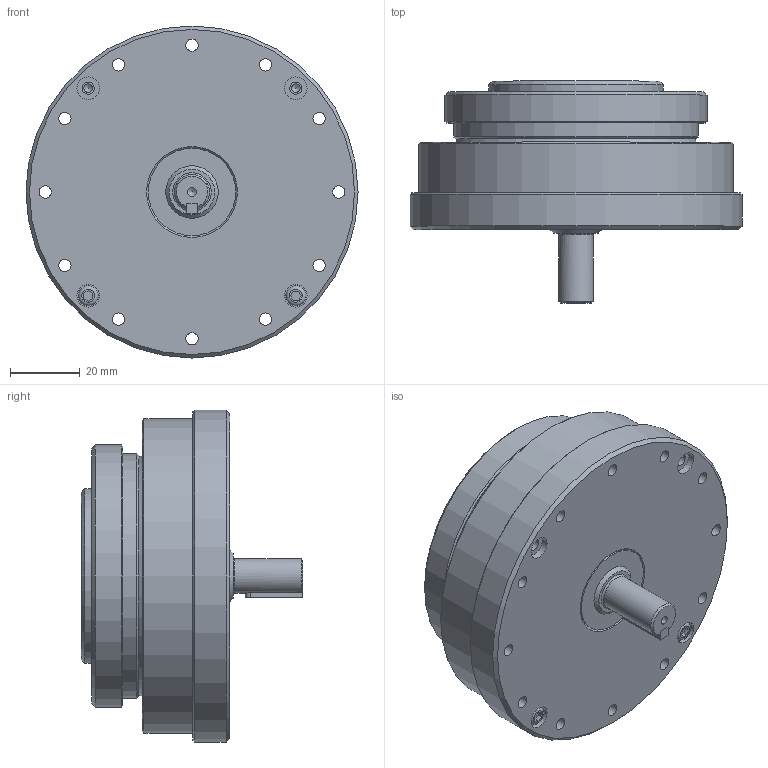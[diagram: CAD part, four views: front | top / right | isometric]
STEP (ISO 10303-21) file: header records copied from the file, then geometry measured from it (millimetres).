
FILE_DESCRIPTION(/* description */ (''),/* implementation_level */ '2;1');
FILE_NAME(/* name */ 'LHT-20-U-4',/* time_stamp */ '2017-09-16T15:45:19+08:00',/* author */ (''),/* organization */ (''),/* preprocessor_version */ 'ST-DEVELOPER v9',/* originating_system */ 'UGS - NX 4.0',/* authorisation */ '');
FILE_SCHEMA (('AUTOMOTIVE_DESIGN { 1 0 10303 214 1 1 1 1 }'));
Length unit declared in the file: millimetre
Products named in the file (1): Admi85A9d2q5
Bounding box: 95 x 63.5 x 95 mm (x, y, z)
Volume: 193031 mm3; surface area: 124812.9 mm2
Topology: 72 solids, 72 shells, 713 faces, 1701 edges, 1144 vertices
Faces by surface type: cylinder 307, plane 256, cone 76, torus 47, sphere 23, bspline 2, revolution 1, extrusion 1
Full cylindrical faces by diameter (mm): 2 x1, 2.135 x6, 2.459 x33, 2.5 x3, 3 x18, 3.5 x88, 4.994 x17, 5 x6, 5.5 x4, 5.7 x2, 6 x8, 6.5 x4, 8 x2, 10 x1, 11 x1, 12 x1, 14.3 x2, 15 x4, 16 x1, 17 x1, 18 x1, 18.3 x2, 19 x2, 22.5 x2, 24.4 x1, 24.7 x1, 25 x2, 28 x3, 29.4 x2, 32.5 x2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
Entity records: 18512 total; most frequent: DIRECTION 3297, CARTESIAN_POINT 3256, ORIENTED_EDGE 2114, AXIS2_PLACEMENT_3D 1532, EDGE_LOOP 1393, FACE_BOUND 1072, EDGE_CURVE 1057, VERTEX_POINT 967
